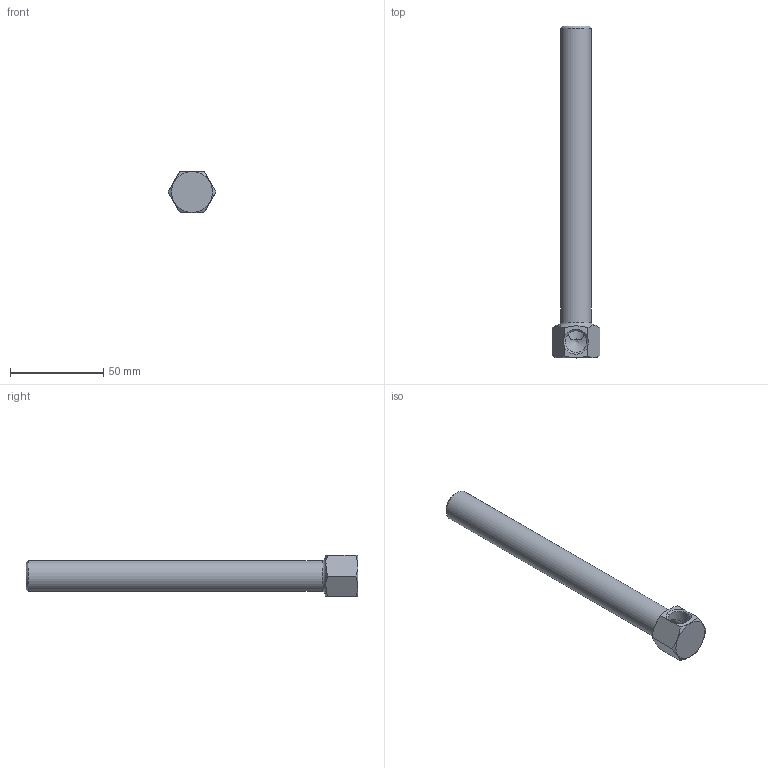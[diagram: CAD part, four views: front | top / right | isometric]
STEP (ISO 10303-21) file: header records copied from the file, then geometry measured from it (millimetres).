
FILE_DESCRIPTION(/* description */ (''),/* implementation_level */ '2;1');
FILE_NAME(/* name */ 'C:/Users/drich/Desktop/1438B-7 v1.step',/* time_stamp */ '2019-12-29T15:28:22-06:00',/* author */ (''),/* organization */ (''),/* preprocessor_version */ 'ST-DEVELOPER v18',/* originating_system */ 'Autodesk Translation Framework v8.12.0.6',/* authorisation */ '');
FILE_SCHEMA (('AUTOMOTIVE_DESIGN { 1 0 10303 214 3 1 1 }'));
Length unit declared in the file: inch
Products named in the file (1): 1438B-7
Bounding box: 25.66 x 177.8 x 22.23 mm (x, y, z)
Volume: 21898.6 mm3; surface area: 16874.5 mm2
Topology: 1 solids, 1 shells, 23 faces, 62 edges, 40 vertices
Faces by surface type: plane 10, cone 8, cylinder 4, torus 1
Full cylindrical faces by diameter (mm): 11.668 x1, 11.887 x1, 16.537 x1
Entity records: 821 total; most frequent: CARTESIAN_POINT 247, ORIENTED_EDGE 122, DIRECTION 104, EDGE_CURVE 61, AXIS2_PLACEMENT_3D 43, VERTEX_POINT 40, EDGE_LOOP 25, FACE_OUTER_BOUND 23
